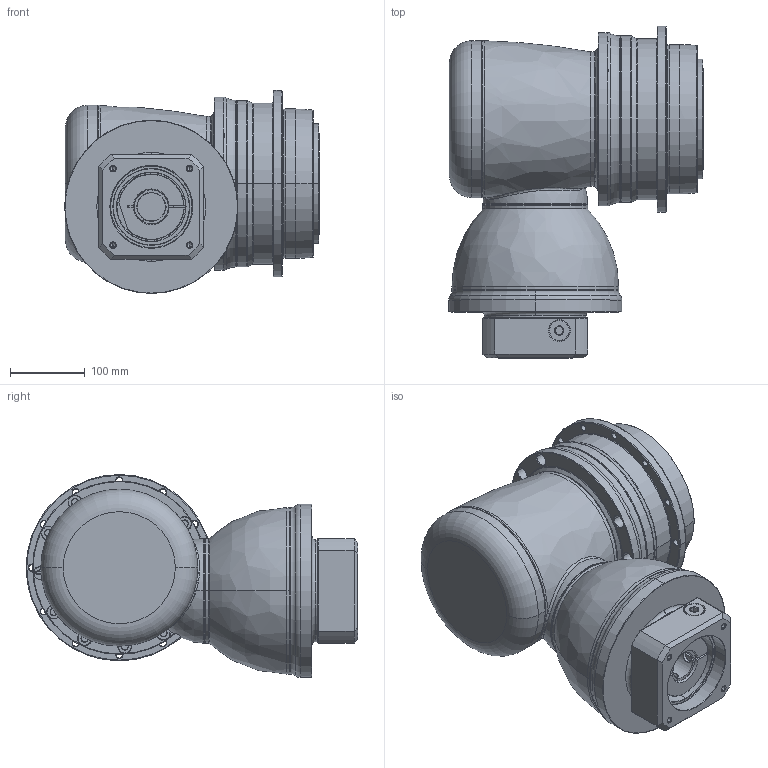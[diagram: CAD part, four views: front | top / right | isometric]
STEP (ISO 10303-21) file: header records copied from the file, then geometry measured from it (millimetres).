
FILE_DESCRIPTION((''),'2;1');
FILE_NAME('AHK200_2ST_38-P0409900101_ASM','2016-10-13T',('d01943'),(''),'PRO/ENGINEER BY PARAMETRIC TECHNOLOGY CORPORATION, 2008410','PRO/ENGINEER BY PARAMETRIC TECHNOLOGY CORPORATION, 2008410','');
FILE_SCHEMA(('CONFIG_CONTROL_DESIGN'));
Length unit declared in the file: millimetre
Products named in the file (12): P1008600002; P1802600011; P0278600003; P0359600002; P1315600001; P1007600001; P1318600201; P0503900012; P0912602201; P0409900101; 21711422019; AHK200_2ST_38-P0409900101_ASM
Assembly tree (11 placements, depth 2):
  AHK200_2ST_38-P0409900101_ASM
    P1008600002
    P1802600011
    P0278600003
    P0359600002
    P1315600001
    P1007600001
    P1318600201
    P0503900012
    P0912602201
    P0409900101
    21711422019
Bounding box: 341 x 444.25 x 271.75 mm (x, y, z)
Volume: 13212910.2 mm3; surface area: 1140398.6 mm2
Topology: 12 solids, 12 shells, 914 faces, 2083 edges, 1210 vertices
Faces by surface type: cylinder 320, cone 292, plane 135, torus 128, bspline 37, sphere 2
Entity records: 31980 total; most frequent: CARTESIAN_POINT 10930, DIRECTION 4846, ORIENTED_EDGE 4042, AXIS2_PLACEMENT_3D 2081, EDGE_CURVE 2021, VERTEX_POINT 1210, CIRCLE 1181, EDGE_LOOP 1055
